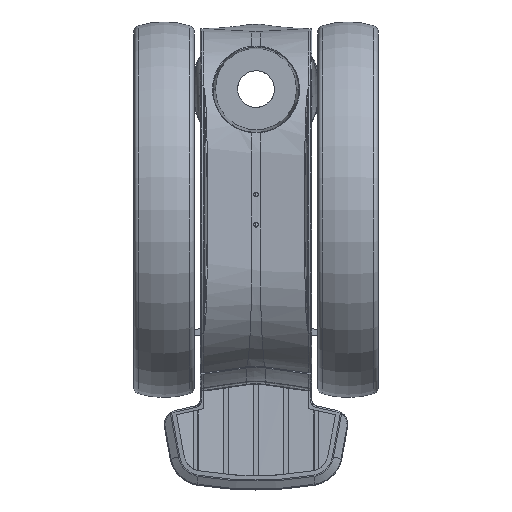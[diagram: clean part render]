
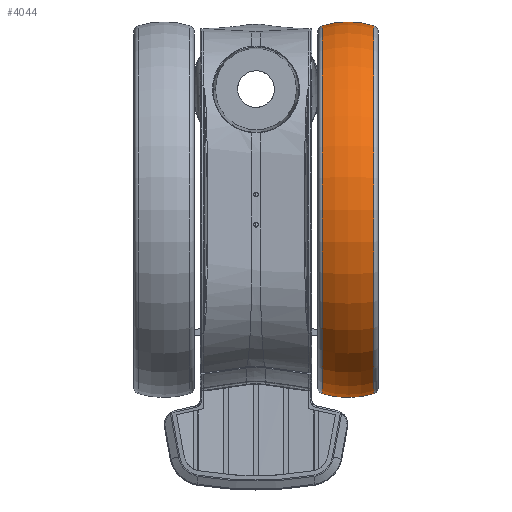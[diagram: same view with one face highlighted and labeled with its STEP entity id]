
A CAD part, front view. The second image highlights one B-rep face of the part: STEP entity #4044.
In plain terms, the highlighted toroidal (fillet/blend) face has major radius 32.25 mm and minor radius 30 mm.
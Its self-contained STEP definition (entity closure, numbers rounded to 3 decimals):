
#1709 = VERTEX_POINT ( 'NONE', #29499 ) ;
#2917 = TOROIDAL_SURFACE ( 'NONE', #3774, 32.25, 30. ) ;
#3012 = CARTESIAN_POINT ( 'NONE',  ( 30.5, -62.5, -72.25 ) ) ;
#3060 = CIRCLE ( 'NONE', #12234, 30. ) ;
#3210 = DIRECTION ( 'NONE',  ( 1., 0., 0. ) ) ;
#3300 = ORIENTED_EDGE ( 'NONE', *, *, #22145, .T. ) ;
#3774 = AXIS2_PLACEMENT_3D ( 'NONE', #29928, #8056, #16263 ) ;
#3840 = CARTESIAN_POINT ( 'NONE',  ( 21.929, -62.5, -100.999 ) ) ;
#3976 = AXIS2_PLACEMENT_3D ( 'NONE', #3012, #29941, #29711 ) ;
#4044 = ADVANCED_FACE ( 'NONE', ( #17421 ), #2917, .T. ) ;
#4213 = CIRCLE ( 'NONE', #3976, 30. ) ;
#7950 = EDGE_LOOP ( 'NONE', ( #21663, #3300, #19471, #34003 ) ) ;
#7951 = AXIS2_PLACEMENT_3D ( 'NONE', #12477, #18300, #23777 ) ;
#8056 = DIRECTION ( 'NONE',  ( -1., 0., 0. ) ) ;
#8833 = CARTESIAN_POINT ( 'NONE',  ( 30.5, -62.5, -7.75 ) ) ;
#11957 = CARTESIAN_POINT ( 'NONE',  ( 39.071, -62.5, 20.999 ) ) ;
#12142 = EDGE_CURVE ( 'NONE', #20651, #24494, #18015, .T. ) ;
#12234 = AXIS2_PLACEMENT_3D ( 'NONE', #8833, #19984, #3210 ) ;
#12477 = CARTESIAN_POINT ( 'NONE',  ( 39.071, -62.5, -40. ) ) ;
#14364 = CIRCLE ( 'NONE', #7951, 60.999 ) ;
#16263 = DIRECTION ( 'NONE',  ( 0., 0., -1. ) ) ;
#17421 = FACE_OUTER_BOUND ( 'NONE', #7950, .T. ) ;
#17902 = DIRECTION ( 'NONE',  ( -1., 0., 0. ) ) ;
#18015 = CIRCLE ( 'NONE', #27610, 60.999 ) ;
#18300 = DIRECTION ( 'NONE',  ( -1., 0., 0. ) ) ;
#19471 = ORIENTED_EDGE ( 'NONE', *, *, #12142, .F. ) ;
#19984 = DIRECTION ( 'NONE',  ( 0., -1., 0. ) ) ;
#20651 = VERTEX_POINT ( 'NONE', #3840 ) ;
#21483 = VERTEX_POINT ( 'NONE', #11957 ) ;
#21663 = ORIENTED_EDGE ( 'NONE', *, *, #34906, .T. ) ;
#22145 = EDGE_CURVE ( 'NONE', #21483, #24494, #3060, .T. ) ;
#23371 = DIRECTION ( 'NONE',  ( 0., 0., -1. ) ) ;
#23777 = DIRECTION ( 'NONE',  ( 0., 0., -1. ) ) ;
#24494 = VERTEX_POINT ( 'NONE', #34949 ) ;
#27610 = AXIS2_PLACEMENT_3D ( 'NONE', #34235, #17902, #23371 ) ;
#28603 = EDGE_CURVE ( 'NONE', #1709, #20651, #4213, .T. ) ;
#29499 = CARTESIAN_POINT ( 'NONE',  ( 39.071, -62.5, -100.999 ) ) ;
#29711 = DIRECTION ( 'NONE',  ( -1., 0., 0. ) ) ;
#29928 = CARTESIAN_POINT ( 'NONE',  ( 30.5, -62.5, -40. ) ) ;
#29941 = DIRECTION ( 'NONE',  ( 0., 1., 0. ) ) ;
#34003 = ORIENTED_EDGE ( 'NONE', *, *, #28603, .F. ) ;
#34235 = CARTESIAN_POINT ( 'NONE',  ( 21.929, -62.5, -40. ) ) ;
#34906 = EDGE_CURVE ( 'NONE', #1709, #21483, #14364, .T. ) ;
#34949 = CARTESIAN_POINT ( 'NONE',  ( 21.929, -62.5, 20.999 ) ) ;
